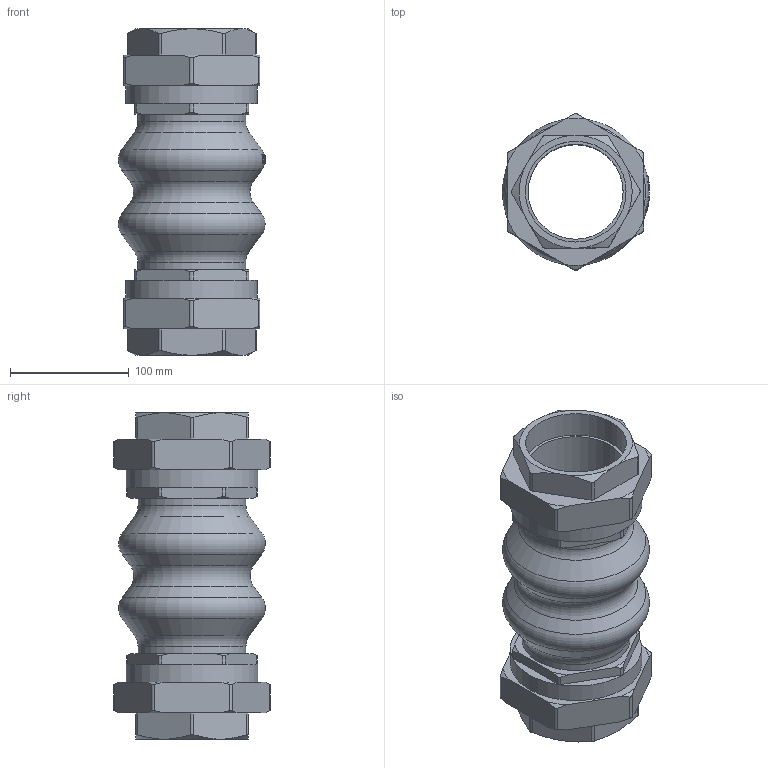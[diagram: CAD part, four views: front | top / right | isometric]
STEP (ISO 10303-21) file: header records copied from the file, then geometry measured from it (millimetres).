
FILE_DESCRIPTION(('STEP AP214'), '1');
FILE_NAME('CR-E17-T Êîìïåíñàòîð ðåçèíîâûé DN.ru Äó80 Ðó10-16', '2026-02-18T05:42:19', ('DN.RU'), (''), 'C3D Converter', 'C3D Toolkit', '');
FILE_SCHEMA(('AUTOMOTIVE_DESIGN { 1 0 10303 214 3 1 1}'));
Length unit declared in the file: millimetre
Products named in the file (1): CR-E17-T
Bounding box: 124.2 x 131.77 x 275 mm (x, y, z)
Volume: 1156866.7 mm3; surface area: 192578.6 mm2
Topology: 1 solids, 1 shells, 215 faces, 588 edges, 392 vertices
Faces by surface type: plane 85, cone 52, cylinder 43, bspline 23, torus 12
Full cylindrical faces by diameter (mm): 80 x1, 84.926 x2, 90.926 x2, 110.926 x2
Entity records: 18316 total; most frequent: CARTESIAN_POINT 11536, ORIENTED_EDGE 1144, DIRECTION 810, EDGE_CURVE 572, VERTEX_POINT 392, AXIS2_PLACEMENT_3D 303, B_SPLINE_CURVE_WITH_KNOTS 258, EDGE_LOOP 250
